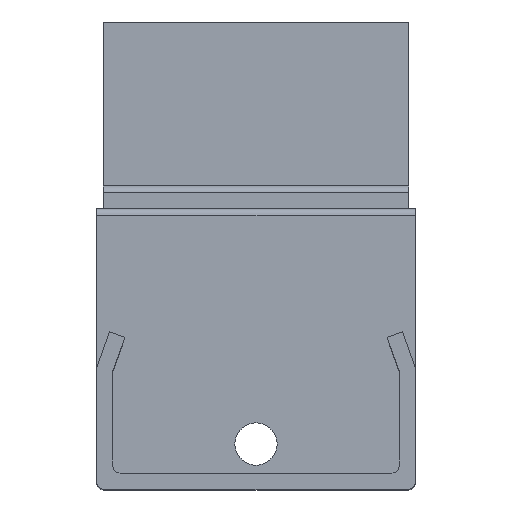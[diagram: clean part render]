
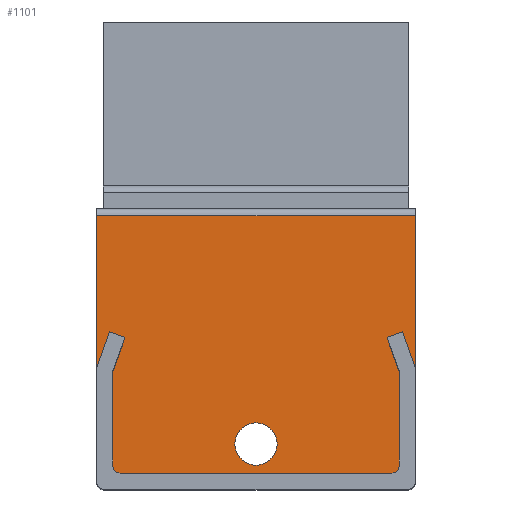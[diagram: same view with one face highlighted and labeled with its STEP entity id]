
A CAD part, top view. The second image highlights one B-rep face of the part: STEP entity #1101.
In plain terms, the highlighted planar face has unit normal (0, 0, 1).
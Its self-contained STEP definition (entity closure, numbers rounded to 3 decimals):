
#17 = EDGE_CURVE ( 'NONE', #2069, #871, #134, .T. ) ;
#18 = LINE ( 'NONE', #698, #1648 ) ;
#46 = VECTOR ( 'NONE', #109, 1000. ) ;
#57 = ORIENTED_EDGE ( 'NONE', *, *, #1376, .F. ) ;
#77 = DIRECTION ( 'NONE',  ( -1., 0., 0. ) ) ;
#87 = DIRECTION ( 'NONE',  ( -1., 0., 0. ) ) ;
#105 = LINE ( 'NONE', #1428, #1810 ) ;
#109 = DIRECTION ( 'NONE',  ( -0.338, 0.941, 0. ) ) ;
#119 = ORIENTED_EDGE ( 'NONE', *, *, #237, .F. ) ;
#134 = LINE ( 'NONE', #1725, #1385 ) ;
#138 = VERTEX_POINT ( 'NONE', #461 ) ;
#158 = DIRECTION ( 'NONE',  ( -1., 0., 0. ) ) ;
#183 = VECTOR ( 'NONE', #1491, 1000. ) ;
#217 = LINE ( 'NONE', #904, #1166 ) ;
#228 = VERTEX_POINT ( 'NONE', #1289 ) ;
#237 = EDGE_CURVE ( 'NONE', #228, #1621, #1324, .T. ) ;
#240 = DIRECTION ( 'NONE',  ( 0., -1., 0. ) ) ;
#242 = LINE ( 'NONE', #1975, #183 ) ;
#271 = DIRECTION ( 'NONE',  ( 0., 0., -1. ) ) ;
#276 = ORIENTED_EDGE ( 'NONE', *, *, #1698, .F. ) ;
#281 = ORIENTED_EDGE ( 'NONE', *, *, #1135, .F. ) ;
#285 = PLANE ( 'NONE',  #2011 ) ;
#294 = AXIS2_PLACEMENT_3D ( 'NONE', #1250, #271, #768 ) ;
#301 = VERTEX_POINT ( 'NONE', #332 ) ;
#326 = VERTEX_POINT ( 'NONE', #1467 ) ;
#328 = ORIENTED_EDGE ( 'NONE', *, *, #1576, .F. ) ;
#332 = CARTESIAN_POINT ( 'NONE',  ( -19.25, 0.2, 0. ) ) ;
#336 = AXIS2_PLACEMENT_3D ( 'NONE', #659, #1665, #158 ) ;
#392 = EDGE_CURVE ( 'NONE', #326, #2133, #242, .T. ) ;
#401 = CARTESIAN_POINT ( 'NONE',  ( 20.25, 1.2, 0. ) ) ;
#414 = VERTEX_POINT ( 'NONE', #1516 ) ;
#429 = ORIENTED_EDGE ( 'NONE', *, *, #526, .F. ) ;
#432 = EDGE_LOOP ( 'NONE', ( #119, #328 ) ) ;
#446 = EDGE_CURVE ( 'NONE', #138, #1264, #1630, .T. ) ;
#461 = CARTESIAN_POINT ( 'NONE',  ( -18.556, 19.423, 0. ) ) ;
#469 = CARTESIAN_POINT ( 'NONE',  ( 18.556, 19.423, 0. ) ) ;
#484 = ORIENTED_EDGE ( 'NONE', *, *, #1843, .F. ) ;
#499 = ORIENTED_EDGE ( 'NONE', *, *, #707, .F. ) ;
#502 = DIRECTION ( 'NONE',  ( 0.338, -0.941, 0. ) ) ;
#509 = EDGE_CURVE ( 'NONE', #1264, #1207, #1945, .T. ) ;
#514 = LINE ( 'NONE', #469, #879 ) ;
#516 = LINE ( 'NONE', #1833, #801 ) ;
#518 = FACE_OUTER_BOUND ( 'NONE', #1953, .T. ) ;
#526 = EDGE_CURVE ( 'NONE', #1583, #414, #217, .T. ) ;
#528 = CARTESIAN_POINT ( 'NONE',  ( 22.55, 36.7, 0. ) ) ;
#544 = AXIS2_PLACEMENT_3D ( 'NONE', #1724, #1230, #77 ) ;
#593 = LINE ( 'NONE', #1431, #1434 ) ;
#596 = VECTOR ( 'NONE', #1345, 1000. ) ;
#604 = CARTESIAN_POINT ( 'NONE',  ( 0., 4.4, 0. ) ) ;
#616 = CARTESIAN_POINT ( 'NONE',  ( 0., 1.4, 0. ) ) ;
#636 = ORIENTED_EDGE ( 'NONE', *, *, #1468, .T. ) ;
#659 = CARTESIAN_POINT ( 'NONE',  ( -19.25, 1.2, 0. ) ) ;
#668 = CIRCLE ( 'NONE', #336, 1. ) ;
#698 = CARTESIAN_POINT ( 'NONE',  ( -22.55, 36.7, 0. ) ) ;
#707 = EDGE_CURVE ( 'NONE', #1014, #1079, #105, .T. ) ;
#720 = EDGE_CURVE ( 'NONE', #1079, #1745, #1382, .T. ) ;
#725 = DIRECTION ( 'NONE',  ( 0., 1., 0. ) ) ;
#759 = CARTESIAN_POINT ( 'NONE',  ( 22.55, 15.1, 0. ) ) ;
#768 = DIRECTION ( 'NONE',  ( -1., 0., 0. ) ) ;
#786 = ORIENTED_EDGE ( 'NONE', *, *, #720, .F. ) ;
#798 = ORIENTED_EDGE ( 'NONE', *, *, #509, .F. ) ;
#801 = VECTOR ( 'NONE', #867, 1000. ) ;
#803 = AXIS2_PLACEMENT_3D ( 'NONE', #604, #1277, #1759 ) ;
#866 = CARTESIAN_POINT ( 'NONE',  ( -22.55, 15.1, 0. ) ) ;
#867 = DIRECTION ( 'NONE',  ( -1., 0., 0. ) ) ;
#871 = VERTEX_POINT ( 'NONE', #1695 ) ;
#873 = EDGE_CURVE ( 'NONE', #2133, #889, #1832, .T. ) ;
#879 = VECTOR ( 'NONE', #502, 1000. ) ;
#889 = VERTEX_POINT ( 'NONE', #1369 ) ;
#903 = CIRCLE ( 'NONE', #544, 3. ) ;
#904 = CARTESIAN_POINT ( 'NONE',  ( -20.25, 14.7, 0. ) ) ;
#922 = DIRECTION ( 'NONE',  ( 0.338, 0.941, 0. ) ) ;
#932 = LINE ( 'NONE', #759, #46 ) ;
#949 = CARTESIAN_POINT ( 'NONE',  ( -20.721, 20.2, 0. ) ) ;
#1009 = VECTOR ( 'NONE', #1351, 1000. ) ;
#1014 = VERTEX_POINT ( 'NONE', #1703 ) ;
#1021 = ORIENTED_EDGE ( 'NONE', *, *, #17, .F. ) ;
#1027 = CARTESIAN_POINT ( 'NONE',  ( -20.721, 20.2, 0. ) ) ;
#1079 = VERTEX_POINT ( 'NONE', #401 ) ;
#1090 = CARTESIAN_POINT ( 'NONE',  ( 19.25, 0.2, 0. ) ) ;
#1101 = ADVANCED_FACE ( 'NONE', ( #1165, #518 ), #285, .F. ) ;
#1135 = EDGE_CURVE ( 'NONE', #414, #138, #593, .T. ) ;
#1150 = ORIENTED_EDGE ( 'NONE', *, *, #873, .F. ) ;
#1165 = FACE_BOUND ( 'NONE', #432, .T. ) ;
#1166 = VECTOR ( 'NONE', #725, 1000. ) ;
#1207 = VERTEX_POINT ( 'NONE', #2087 ) ;
#1223 = CARTESIAN_POINT ( 'NONE',  ( -20.25, 1.2, 0. ) ) ;
#1230 = DIRECTION ( 'NONE',  ( 0., 0., 1. ) ) ;
#1250 = CARTESIAN_POINT ( 'NONE',  ( 19.25, 1.2, 0. ) ) ;
#1264 = VERTEX_POINT ( 'NONE', #949 ) ;
#1277 = DIRECTION ( 'NONE',  ( 0., 0., 1. ) ) ;
#1289 = CARTESIAN_POINT ( 'NONE',  ( 0., 7.4, 0. ) ) ;
#1324 = CIRCLE ( 'NONE', #803, 3. ) ;
#1345 = DIRECTION ( 'NONE',  ( 0., -1., 0. ) ) ;
#1351 = DIRECTION ( 'NONE',  ( -0.941, 0.338, 0. ) ) ;
#1369 = CARTESIAN_POINT ( 'NONE',  ( 22.55, 15.1, 0. ) ) ;
#1376 = EDGE_CURVE ( 'NONE', #1745, #301, #516, .T. ) ;
#1382 = CIRCLE ( 'NONE', #294, 1. ) ;
#1385 = VECTOR ( 'NONE', #1439, 1000. ) ;
#1428 = CARTESIAN_POINT ( 'NONE',  ( 20.25, 1.2, 0. ) ) ;
#1431 = CARTESIAN_POINT ( 'NONE',  ( -18.556, 19.423, 0. ) ) ;
#1434 = VECTOR ( 'NONE', #922, 1000. ) ;
#1439 = DIRECTION ( 'NONE',  ( -0.941, -0.338, 0. ) ) ;
#1446 = CARTESIAN_POINT ( 'NONE',  ( 21.6, 36.7, 0. ) ) ;
#1464 = ORIENTED_EDGE ( 'NONE', *, *, #446, .F. ) ;
#1467 = CARTESIAN_POINT ( 'NONE',  ( -22.55, 36.7, 0. ) ) ;
#1468 = EDGE_CURVE ( 'NONE', #326, #1207, #18, .T. ) ;
#1491 = DIRECTION ( 'NONE',  ( 1., 0., 0. ) ) ;
#1513 = ORIENTED_EDGE ( 'NONE', *, *, #1937, .F. ) ;
#1516 = CARTESIAN_POINT ( 'NONE',  ( -20.25, 14.7, 0. ) ) ;
#1576 = EDGE_CURVE ( 'NONE', #1621, #228, #903, .T. ) ;
#1583 = VERTEX_POINT ( 'NONE', #1223 ) ;
#1621 = VERTEX_POINT ( 'NONE', #616 ) ;
#1630 = LINE ( 'NONE', #1027, #1009 ) ;
#1648 = VECTOR ( 'NONE', #240, 1000. ) ;
#1665 = DIRECTION ( 'NONE',  ( 0., 0., -1. ) ) ;
#1674 = DIRECTION ( 'NONE',  ( -0.338, -0.941, 0. ) ) ;
#1677 = CARTESIAN_POINT ( 'NONE',  ( 22.55, 36.7, 0. ) ) ;
#1681 = CARTESIAN_POINT ( 'NONE',  ( 20.721, 20.2, 0. ) ) ;
#1695 = CARTESIAN_POINT ( 'NONE',  ( 18.556, 19.423, 0. ) ) ;
#1698 = EDGE_CURVE ( 'NONE', #889, #2069, #932, .T. ) ;
#1703 = CARTESIAN_POINT ( 'NONE',  ( 20.25, 14.7, 0. ) ) ;
#1724 = CARTESIAN_POINT ( 'NONE',  ( 0., 4.4, 0. ) ) ;
#1725 = CARTESIAN_POINT ( 'NONE',  ( 20.721, 20.2, 0. ) ) ;
#1745 = VERTEX_POINT ( 'NONE', #1090 ) ;
#1759 = DIRECTION ( 'NONE',  ( -1., 0., 0. ) ) ;
#1810 = VECTOR ( 'NONE', #2080, 1000. ) ;
#1832 = LINE ( 'NONE', #1677, #596 ) ;
#1833 = CARTESIAN_POINT ( 'NONE',  ( -19.25, 0.2, 0. ) ) ;
#1843 = EDGE_CURVE ( 'NONE', #871, #1014, #514, .T. ) ;
#1936 = DIRECTION ( 'NONE',  ( 0., 0., -1. ) ) ;
#1937 = EDGE_CURVE ( 'NONE', #301, #1583, #668, .T. ) ;
#1945 = LINE ( 'NONE', #866, #2048 ) ;
#1953 = EDGE_LOOP ( 'NONE', ( #276, #1150, #1978, #636, #798, #1464, #281, #429, #1513, #57, #786, #499, #484, #1021 ) ) ;
#1975 = CARTESIAN_POINT ( 'NONE',  ( 21.6, 36.7, 0. ) ) ;
#1978 = ORIENTED_EDGE ( 'NONE', *, *, #392, .F. ) ;
#2011 = AXIS2_PLACEMENT_3D ( 'NONE', #1446, #1936, #87 ) ;
#2048 = VECTOR ( 'NONE', #1674, 1000. ) ;
#2069 = VERTEX_POINT ( 'NONE', #1681 ) ;
#2080 = DIRECTION ( 'NONE',  ( 0., -1., 0. ) ) ;
#2087 = CARTESIAN_POINT ( 'NONE',  ( -22.55, 15.1, 0. ) ) ;
#2133 = VERTEX_POINT ( 'NONE', #528 ) ;
